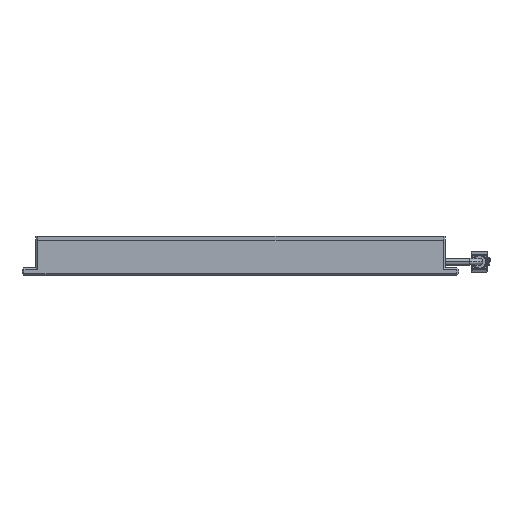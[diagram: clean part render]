
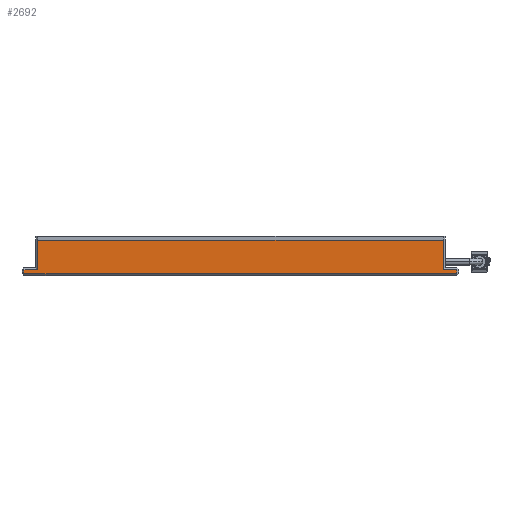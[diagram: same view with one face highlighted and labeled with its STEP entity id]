
A CAD part, left-side view. The second image highlights one B-rep face of the part: STEP entity #2692.
In plain terms, the highlighted planar face has unit normal (-1, 0, 0).
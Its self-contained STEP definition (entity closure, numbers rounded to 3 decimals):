
#34 = CARTESIAN_POINT ( 'NONE',  ( -105., -105., 18. ) ) ;
#324 = CARTESIAN_POINT ( 'NONE',  ( -105., -104., 18. ) ) ;
#347 = LINE ( 'NONE', #3814, #3757 ) ;
#386 = DIRECTION ( 'NONE',  ( 0., 1., 0. ) ) ;
#402 = LINE ( 'NONE', #8047, #7002 ) ;
#619 = VERTEX_POINT ( 'NONE', #324 ) ;
#947 = VECTOR ( 'NONE', #1777, 1000. ) ;
#1046 = VERTEX_POINT ( 'NONE', #6270 ) ;
#1116 = CARTESIAN_POINT ( 'NONE',  ( -105., -111., 4. ) ) ;
#1240 = ORIENTED_EDGE ( 'NONE', *, *, #4503, .T. ) ;
#1363 = ORIENTED_EDGE ( 'NONE', *, *, #3125, .F. ) ;
#1627 = VECTOR ( 'NONE', #7358, 1000. ) ;
#1701 = ORIENTED_EDGE ( 'NONE', *, *, #6024, .T. ) ;
#1726 = EDGE_CURVE ( 'NONE', #6206, #619, #3811, .T. ) ;
#1777 = DIRECTION ( 'NONE',  ( 0., 0., 1. ) ) ;
#1812 = DIRECTION ( 'NONE',  ( 1., 0., 0. ) ) ;
#1858 = EDGE_CURVE ( 'NONE', #4056, #7891, #2864, .T. ) ;
#2061 = ORIENTED_EDGE ( 'NONE', *, *, #7833, .T. ) ;
#2076 = CARTESIAN_POINT ( 'NONE',  ( -105., -111., 3. ) ) ;
#2546 = EDGE_CURVE ( 'NONE', #1046, #6491, #5028, .T. ) ;
#2563 = CARTESIAN_POINT ( 'NONE',  ( -105., 111., 1. ) ) ;
#2671 = CARTESIAN_POINT ( 'NONE',  ( -105., -104., 18. ) ) ;
#2692 = ADVANCED_FACE ( 'NONE', ( #7005 ), #6456, .F. ) ;
#2864 = LINE ( 'NONE', #7479, #1627 ) ;
#3111 = CARTESIAN_POINT ( 'NONE',  ( -105., 104., 3. ) ) ;
#3122 = CARTESIAN_POINT ( 'NONE',  ( -105., -111., 1. ) ) ;
#3125 = EDGE_CURVE ( 'NONE', #1046, #619, #8486, .T. ) ;
#3298 = DIRECTION ( 'NONE',  ( 0., 0., 1. ) ) ;
#3405 = ORIENTED_EDGE ( 'NONE', *, *, #2546, .T. ) ;
#3607 = EDGE_LOOP ( 'NONE', ( #1363, #3405, #2061, #1240, #8640, #3832, #1701, #6164 ) ) ;
#3718 = CARTESIAN_POINT ( 'NONE',  ( -105., 104., 18. ) ) ;
#3757 = VECTOR ( 'NONE', #5688, 1000. ) ;
#3795 = VECTOR ( 'NONE', #6908, 1000. ) ;
#3811 = LINE ( 'NONE', #2671, #7865 ) ;
#3814 = CARTESIAN_POINT ( 'NONE',  ( -105., 111., 0. ) ) ;
#3832 = ORIENTED_EDGE ( 'NONE', *, *, #4954, .T. ) ;
#4056 = VERTEX_POINT ( 'NONE', #2563 ) ;
#4145 = VERTEX_POINT ( 'NONE', #2076 ) ;
#4323 = CARTESIAN_POINT ( 'NONE',  ( -105., 111., 3. ) ) ;
#4333 = CARTESIAN_POINT ( 'NONE',  ( -105., -105., 3. ) ) ;
#4503 = EDGE_CURVE ( 'NONE', #6362, #4056, #347, .T. ) ;
#4811 = DIRECTION ( 'NONE',  ( 0., 1., 0. ) ) ;
#4954 = EDGE_CURVE ( 'NONE', #7891, #4145, #8127, .T. ) ;
#5028 = LINE ( 'NONE', #3718, #3795 ) ;
#5159 = CARTESIAN_POINT ( 'NONE',  ( -105., -105., 18. ) ) ;
#5230 = AXIS2_PLACEMENT_3D ( 'NONE', #5159, #1812, #6510 ) ;
#5688 = DIRECTION ( 'NONE',  ( 0., 0., -1. ) ) ;
#6024 = EDGE_CURVE ( 'NONE', #4145, #6206, #402, .T. ) ;
#6164 = ORIENTED_EDGE ( 'NONE', *, *, #1726, .T. ) ;
#6206 = VERTEX_POINT ( 'NONE', #7415 ) ;
#6270 = CARTESIAN_POINT ( 'NONE',  ( -105., 104., 18. ) ) ;
#6362 = VERTEX_POINT ( 'NONE', #4323 ) ;
#6456 = PLANE ( 'NONE',  #5230 ) ;
#6491 = VERTEX_POINT ( 'NONE', #3111 ) ;
#6510 = DIRECTION ( 'NONE',  ( 0., 0., -1. ) ) ;
#6706 = DIRECTION ( 'NONE',  ( 0., -1., 0. ) ) ;
#6908 = DIRECTION ( 'NONE',  ( 0., 0., -1. ) ) ;
#7002 = VECTOR ( 'NONE', #4811, 1000. ) ;
#7005 = FACE_OUTER_BOUND ( 'NONE', #3607, .T. ) ;
#7202 = VECTOR ( 'NONE', #6706, 1000. ) ;
#7288 = VECTOR ( 'NONE', #386, 1000. ) ;
#7358 = DIRECTION ( 'NONE',  ( 0., -1., 0. ) ) ;
#7415 = CARTESIAN_POINT ( 'NONE',  ( -105., -104., 3. ) ) ;
#7479 = CARTESIAN_POINT ( 'NONE',  ( -105., -112., 1. ) ) ;
#7818 = LINE ( 'NONE', #4333, #7288 ) ;
#7833 = EDGE_CURVE ( 'NONE', #6491, #6362, #7818, .T. ) ;
#7865 = VECTOR ( 'NONE', #3298, 1000. ) ;
#7891 = VERTEX_POINT ( 'NONE', #3122 ) ;
#8047 = CARTESIAN_POINT ( 'NONE',  ( -105., -105., 3. ) ) ;
#8127 = LINE ( 'NONE', #1116, #947 ) ;
#8486 = LINE ( 'NONE', #34, #7202 ) ;
#8640 = ORIENTED_EDGE ( 'NONE', *, *, #1858, .T. ) ;
